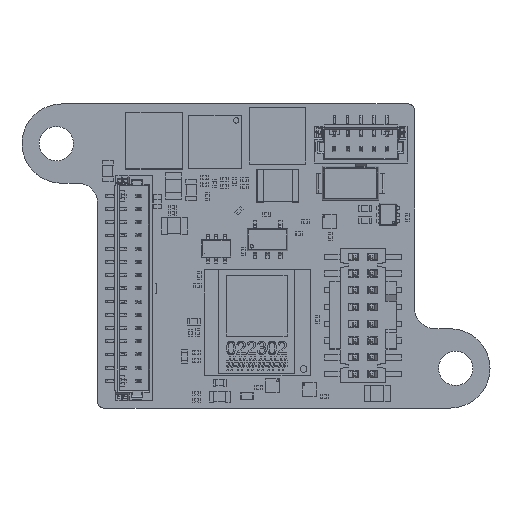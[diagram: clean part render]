
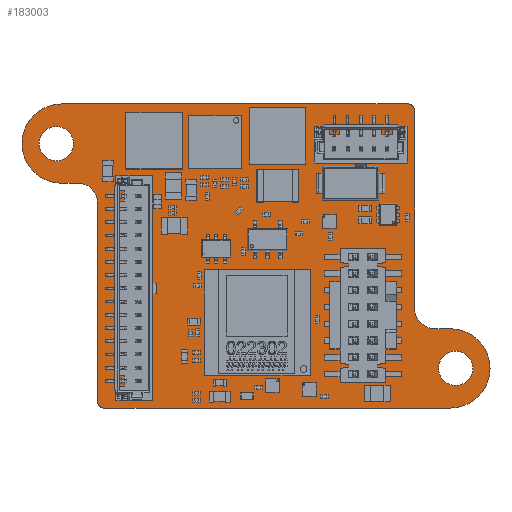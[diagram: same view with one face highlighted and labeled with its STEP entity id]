
A CAD part, top view. The second image highlights one B-rep face of the part: STEP entity #183003.
In plain terms, the highlighted planar face has unit normal (0, 0, 1).
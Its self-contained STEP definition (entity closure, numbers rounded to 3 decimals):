
#5401=FACE_BOUND('',#25792,.T.);
#5402=FACE_BOUND('',#25793,.T.);
#5892=PLANE('',#193963);
#15399=FACE_OUTER_BOUND('',#25791,.T.);
#25791=EDGE_LOOP('',(#129756,#129757,#129758,#129759,#129760,#129761,#129762,
#129763,#129764,#129765,#129766,#129767));
#25792=EDGE_LOOP('',(#129768));
#25793=EDGE_LOOP('',(#129769));
#36651=CIRCLE('',#193934,1.431);
#36653=CIRCLE('',#193938,0.498);
#36655=CIRCLE('',#193942,3.);
#36657=CIRCLE('',#193946,1.533);
#36659=CIRCLE('',#193950,0.498);
#36661=CIRCLE('',#193954,3.);
#36662=CIRCLE('',#193957,1.3);
#36664=CIRCLE('',#193960,1.3);
#38079=LINE('',#254543,#62349);
#38083=LINE('',#254555,#62353);
#38087=LINE('',#254567,#62357);
#38091=LINE('',#254579,#62361);
#38095=LINE('',#254591,#62365);
#38098=LINE('',#254600,#62368);
#62349=VECTOR('',#206056,1.);
#62353=VECTOR('',#206068,1.);
#62357=VECTOR('',#206080,1.);
#62361=VECTOR('',#206092,1.);
#62365=VECTOR('',#206104,1.);
#62368=VECTOR('',#206115,1.);
#86616=VERTEX_POINT('',#254531);
#86618=VERTEX_POINT('',#254535);
#86620=VERTEX_POINT('',#254541);
#86622=VERTEX_POINT('',#254547);
#86624=VERTEX_POINT('',#254553);
#86626=VERTEX_POINT('',#254559);
#86628=VERTEX_POINT('',#254565);
#86630=VERTEX_POINT('',#254571);
#86632=VERTEX_POINT('',#254577);
#86634=VERTEX_POINT('',#254583);
#86636=VERTEX_POINT('',#254589);
#86638=VERTEX_POINT('',#254595);
#86639=VERTEX_POINT('',#254602);
#86641=VERTEX_POINT('',#254608);
#103444=EDGE_CURVE('',#86616,#86618,#36651,.T.);
#103447=EDGE_CURVE('',#86618,#86620,#38079,.T.);
#103450=EDGE_CURVE('',#86620,#86622,#36653,.T.);
#103453=EDGE_CURVE('',#86622,#86624,#38083,.T.);
#103456=EDGE_CURVE('',#86624,#86626,#36655,.T.);
#103459=EDGE_CURVE('',#86626,#86628,#38087,.T.);
#103462=EDGE_CURVE('',#86628,#86630,#36657,.T.);
#103465=EDGE_CURVE('',#86630,#86632,#38091,.T.);
#103468=EDGE_CURVE('',#86632,#86634,#36659,.T.);
#103471=EDGE_CURVE('',#86634,#86636,#38095,.T.);
#103474=EDGE_CURVE('',#86636,#86638,#36661,.T.);
#103476=EDGE_CURVE('',#86638,#86616,#38098,.T.);
#103477=EDGE_CURVE('',#86639,#86639,#36662,.T.);
#103480=EDGE_CURVE('',#86641,#86641,#36664,.T.);
#129756=ORIENTED_EDGE('',*,*,#103444,.T.);
#129757=ORIENTED_EDGE('',*,*,#103447,.T.);
#129758=ORIENTED_EDGE('',*,*,#103450,.T.);
#129759=ORIENTED_EDGE('',*,*,#103453,.T.);
#129760=ORIENTED_EDGE('',*,*,#103456,.T.);
#129761=ORIENTED_EDGE('',*,*,#103459,.T.);
#129762=ORIENTED_EDGE('',*,*,#103462,.T.);
#129763=ORIENTED_EDGE('',*,*,#103465,.T.);
#129764=ORIENTED_EDGE('',*,*,#103468,.T.);
#129765=ORIENTED_EDGE('',*,*,#103471,.T.);
#129766=ORIENTED_EDGE('',*,*,#103474,.T.);
#129767=ORIENTED_EDGE('',*,*,#103476,.T.);
#129768=ORIENTED_EDGE('',*,*,#103477,.F.);
#129769=ORIENTED_EDGE('',*,*,#103480,.F.);
#183003=ADVANCED_FACE('',(#15399,#5401,#5402),#5892,.T.);
#193934=AXIS2_PLACEMENT_3D('',#254537,#206050,#206051);
#193938=AXIS2_PLACEMENT_3D('',#254549,#206062,#206063);
#193942=AXIS2_PLACEMENT_3D('',#254561,#206074,#206075);
#193946=AXIS2_PLACEMENT_3D('',#254573,#206086,#206087);
#193950=AXIS2_PLACEMENT_3D('',#254585,#206098,#206099);
#193954=AXIS2_PLACEMENT_3D('',#254597,#206110,#206111);
#193957=AXIS2_PLACEMENT_3D('',#254603,#206118,#206119);
#193960=AXIS2_PLACEMENT_3D('',#254609,#206125,#206126);
#193963=AXIS2_PLACEMENT_3D('',#254614,#206132,#206133);
#206050=DIRECTION('center_axis',(0.,0.,-1.));
#206051=DIRECTION('ref_axis',(0.001,1.,0.));
#206056=DIRECTION('',(0.,-1.,0.));
#206062=DIRECTION('center_axis',(0.,0.,1.));
#206063=DIRECTION('ref_axis',(-1.,0.003,0.));
#206068=DIRECTION('',(1.,0.,0.));
#206074=DIRECTION('center_axis',(0.,0.,1.));
#206075=DIRECTION('ref_axis',(0.,-1.,0.));
#206080=DIRECTION('',(-1.,0.,0.));
#206086=DIRECTION('center_axis',(0.,0.,-1.));
#206087=DIRECTION('ref_axis',(-0.001,-1.,
0.));
#206092=DIRECTION('',(0.,1.,0.));
#206098=DIRECTION('center_axis',(0.,0.,1.));
#206099=DIRECTION('ref_axis',(1.,-0.003,0.));
#206104=DIRECTION('',(-1.,0.,0.));
#206110=DIRECTION('center_axis',(0.,0.,1.));
#206111=DIRECTION('ref_axis',(0.,1.,0.));
#206115=DIRECTION('',(1.,0.,0.));
#206118=DIRECTION('center_axis',(0.,0.,1.));
#206119=DIRECTION('ref_axis',(1.,0.,0.));
#206125=DIRECTION('center_axis',(0.,0.,1.));
#206126=DIRECTION('ref_axis',(1.,0.,0.));
#206132=DIRECTION('center_axis',(0.,0.,1.));
#206133=DIRECTION('ref_axis',(1.,0.,0.));
#254531=CARTESIAN_POINT('',(4.271,17.,0.));
#254535=CARTESIAN_POINT('',(5.7,15.571,0.));
#254537=CARTESIAN_POINT('Origin',(4.269,15.569,0.));
#254541=CARTESIAN_POINT('',(5.7,0.5,0.));
#254543=CARTESIAN_POINT('',(5.7,15.571,0.));
#254547=CARTESIAN_POINT('',(6.2,0.,0.));
#254549=CARTESIAN_POINT('Origin',(6.198,0.498,0.));
#254553=CARTESIAN_POINT('',(32.4,0.,0.));
#254555=CARTESIAN_POINT('',(6.2,0.,0.));
#254559=CARTESIAN_POINT('',(32.4,6.,0.));
#254561=CARTESIAN_POINT('Origin',(32.4,3.,0.));
#254565=CARTESIAN_POINT('',(31.232,6.,0.));
#254567=CARTESIAN_POINT('',(32.4,6.,0.));
#254571=CARTESIAN_POINT('',(29.7,7.532,0.));
#254573=CARTESIAN_POINT('Origin',(31.233,7.533,0.));
#254577=CARTESIAN_POINT('',(29.7,22.5,0.));
#254579=CARTESIAN_POINT('',(29.7,7.532,0.));
#254583=CARTESIAN_POINT('',(29.2,23.,0.));
#254585=CARTESIAN_POINT('Origin',(29.202,22.502,0.));
#254589=CARTESIAN_POINT('',(3.,23.,0.));
#254591=CARTESIAN_POINT('',(29.2,23.,0.));
#254595=CARTESIAN_POINT('',(3.,17.,0.));
#254597=CARTESIAN_POINT('Origin',(3.,20.,0.));
#254600=CARTESIAN_POINT('',(3.,17.,0.));
#254602=CARTESIAN_POINT('',(1.3,20.,0.));
#254603=CARTESIAN_POINT('Origin',(2.6,20.,0.));
#254608=CARTESIAN_POINT('',(31.5,3.,0.));
#254609=CARTESIAN_POINT('Origin',(32.8,3.,0.));
#254614=CARTESIAN_POINT('Origin',(4.271,17.,0.));
